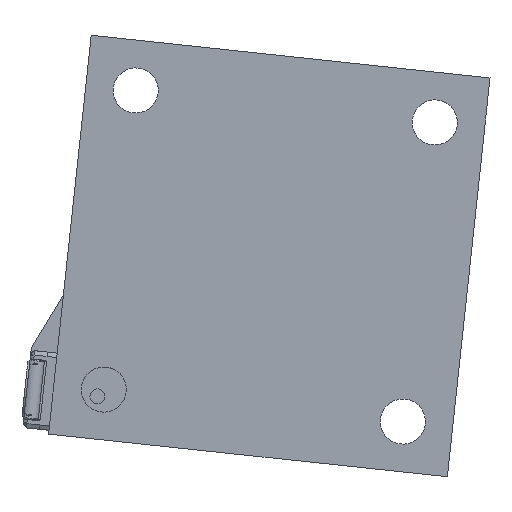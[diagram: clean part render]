
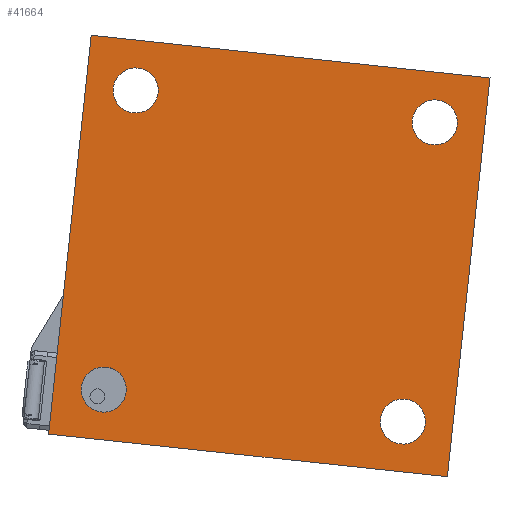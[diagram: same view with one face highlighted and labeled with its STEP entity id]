
A CAD part, left-side view. The second image highlights one B-rep face of the part: STEP entity #41664.
In plain terms, the highlighted planar face has unit normal (-1, 0, 0).
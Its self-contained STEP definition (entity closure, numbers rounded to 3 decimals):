
#2097=FACE_BOUND('',#6348,.T.);
#2098=FACE_BOUND('',#6349,.T.);
#2099=FACE_BOUND('',#6350,.T.);
#2100=FACE_BOUND('',#6351,.T.);
#4144=FACE_OUTER_BOUND('',#6347,.T.);
#6347=EDGE_LOOP('',(#36028,#36029,#36030,#36031));
#6348=EDGE_LOOP('',(#36032));
#6349=EDGE_LOOP('',(#36033));
#6350=EDGE_LOOP('',(#36034));
#6351=EDGE_LOOP('',(#36035));
#7666=CIRCLE('',#45160,9.);
#7667=CIRCLE('',#45162,9.);
#7668=CIRCLE('',#45164,9.);
#7669=CIRCLE('',#45166,9.);
#11250=LINE('',#81237,#14834);
#11253=LINE('',#81242,#14837);
#11255=LINE('',#81246,#14839);
#11257=LINE('',#81249,#14841);
#14834=VECTOR('',#55650,10.);
#14837=VECTOR('',#55655,10.);
#14839=VECTOR('',#55659,10.);
#14841=VECTOR('',#55663,10.);
#18624=VERTEX_POINT('',#81219);
#18625=VERTEX_POINT('',#81223);
#18626=VERTEX_POINT('',#81227);
#18627=VERTEX_POINT('',#81231);
#18628=VERTEX_POINT('',#81235);
#18629=VERTEX_POINT('',#81236);
#18630=VERTEX_POINT('',#81241);
#18631=VERTEX_POINT('',#81245);
#24455=EDGE_CURVE('',#18624,#18624,#7666,.T.);
#24457=EDGE_CURVE('',#18625,#18625,#7667,.T.);
#24459=EDGE_CURVE('',#18626,#18626,#7668,.T.);
#24461=EDGE_CURVE('',#18627,#18627,#7669,.T.);
#24462=EDGE_CURVE('',#18628,#18629,#11250,.T.);
#24465=EDGE_CURVE('',#18629,#18630,#11253,.T.);
#24467=EDGE_CURVE('',#18630,#18631,#11255,.T.);
#24469=EDGE_CURVE('',#18631,#18628,#11257,.T.);
#36028=ORIENTED_EDGE('',*,*,#24469,.T.);
#36029=ORIENTED_EDGE('',*,*,#24462,.T.);
#36030=ORIENTED_EDGE('',*,*,#24465,.T.);
#36031=ORIENTED_EDGE('',*,*,#24467,.T.);
#36032=ORIENTED_EDGE('',*,*,#24455,.T.);
#36033=ORIENTED_EDGE('',*,*,#24457,.T.);
#36034=ORIENTED_EDGE('',*,*,#24459,.T.);
#36035=ORIENTED_EDGE('',*,*,#24461,.T.);
#37498=PLANE('',#45171);
#41664=ADVANCED_FACE('',(#4144,#2097,#2098,#2099,#2100),#37498,.F.);
#45160=AXIS2_PLACEMENT_3D('',#81221,#55631,#55632);
#45162=AXIS2_PLACEMENT_3D('',#81225,#55636,#55637);
#45164=AXIS2_PLACEMENT_3D('',#81229,#55641,#55642);
#45166=AXIS2_PLACEMENT_3D('',#81233,#55646,#55647);
#45171=AXIS2_PLACEMENT_3D('',#81250,#55664,#55665);
#55631=DIRECTION('center_axis',(1.,0.,0.));
#55632=DIRECTION('ref_axis',(0.,0.106,-0.994));
#55636=DIRECTION('center_axis',(1.,0.,0.));
#55637=DIRECTION('ref_axis',(0.,0.106,-0.994));
#55641=DIRECTION('center_axis',(1.,0.,0.));
#55642=DIRECTION('ref_axis',(0.,0.106,-0.994));
#55646=DIRECTION('center_axis',(1.,0.,0.));
#55647=DIRECTION('ref_axis',(0.,0.106,-0.994));
#55650=DIRECTION('',(0.,-0.994,-0.106));
#55655=DIRECTION('',(0.,-0.106,0.994));
#55659=DIRECTION('',(0.,0.994,0.106));
#55663=DIRECTION('',(0.,0.106,-0.994));
#55664=DIRECTION('center_axis',(1.,0.,0.));
#55665=DIRECTION('ref_axis',(0.,0.106,-0.994));
#81219=CARTESIAN_POINT('',(-191.581,-52.926,-57.183));
#81221=CARTESIAN_POINT('Origin',(-191.581,-51.969,-66.132));
#81223=CARTESIAN_POINT('',(-191.581,53.639,74.893));
#81225=CARTESIAN_POINT('Origin',(-191.581,54.595,65.944));
#81227=CARTESIAN_POINT('',(-191.581,-65.682,62.137));
#81229=CARTESIAN_POINT('Origin',(-191.581,-64.725,53.188));
#81231=CARTESIAN_POINT('',(-191.581,66.394,-44.427));
#81233=CARTESIAN_POINT('Origin',(-191.581,67.351,-53.376));
#81235=CARTESIAN_POINT('',(-191.581,89.364,-71.137));
#81236=CARTESIAN_POINT('',(-191.581,-69.73,-88.145));
#81237=CARTESIAN_POINT('',(-191.581,89.364,-71.137));
#81241=CARTESIAN_POINT('',(-191.581,-86.738,70.949));
#81242=CARTESIAN_POINT('',(-191.581,-69.73,-88.145));
#81245=CARTESIAN_POINT('',(-191.581,72.356,87.956));
#81246=CARTESIAN_POINT('',(-191.581,-86.738,70.949));
#81249=CARTESIAN_POINT('',(-191.581,72.356,87.956));
#81250=CARTESIAN_POINT('Origin',(-191.581,1.313,-0.094));
